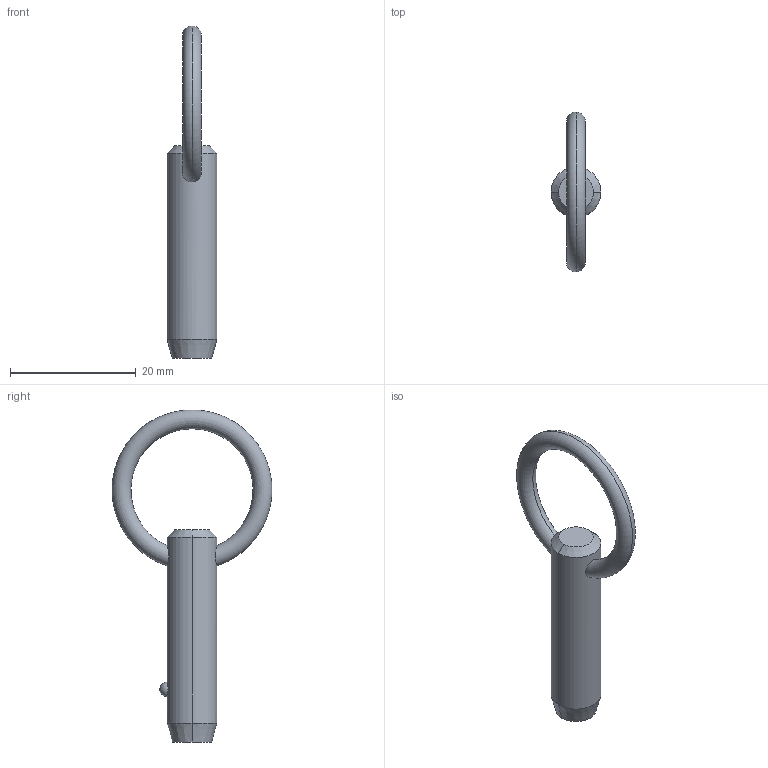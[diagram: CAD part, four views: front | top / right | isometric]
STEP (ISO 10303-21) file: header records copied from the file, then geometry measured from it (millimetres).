
FILE_DESCRIPTION (( 'STEP AP203' ), '1' );
FILE_NAME ('P1250.031-070.step', '2019-07-29T19:47:32', ( '' ), ( '' ), 'SwSTEP 2.0', 'SolidWorks 2017', '' );
FILE_SCHEMA (( 'CONFIG_CONTROL_DESIGN' ));
Length unit declared in the file: millimetre
Products named in the file (1): P1250.031-070
Bounding box: 7.93 x 25.36 x 52.7 mm (x, y, z)
Volume: 2063.5 mm3; surface area: 1474.2 mm2
Topology: 1 solids, 1 shells, 12 faces, 28 edges, 17 vertices
Faces by surface type: cone 4, torus 2, sphere 2, cylinder 2, plane 2
Entity records: 509 total; most frequent: CARTESIAN_POINT 176, DIRECTION 56, ORIENTED_EDGE 48, AXIS2_PLACEMENT_3D 25, EDGE_CURVE 24, VERTEX_POINT 15, EDGE_LOOP 15, FACE_OUTER_BOUND 12
